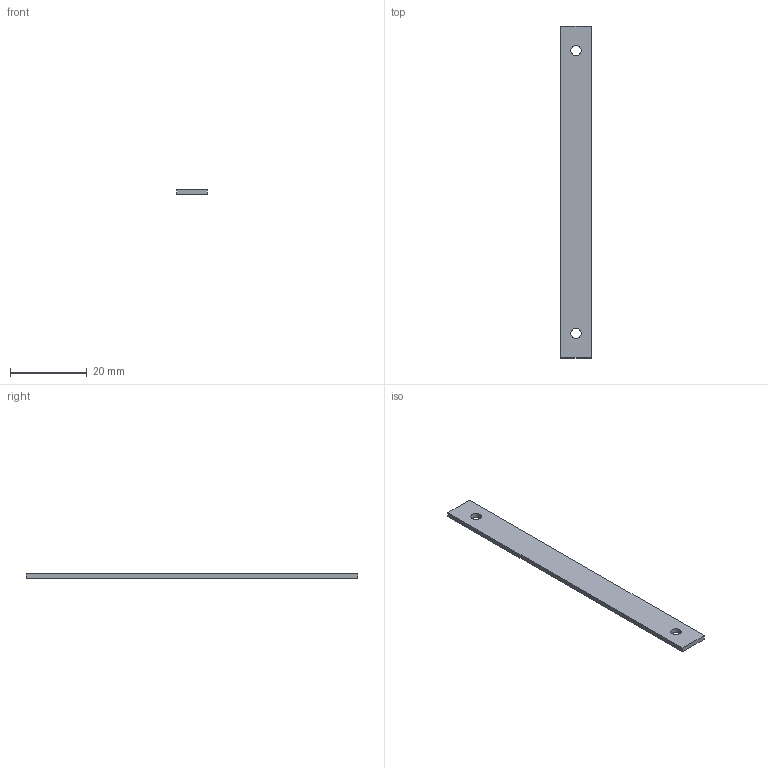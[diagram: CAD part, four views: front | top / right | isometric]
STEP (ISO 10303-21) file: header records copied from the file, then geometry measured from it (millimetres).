
FILE_DESCRIPTION(('Open CASCADE Model'),'2;1');
FILE_NAME('Open CASCADE Shape Model','2026-10-06T09:51:01',('Author'),( 'Open CASCADE'),'Open CASCADE STEP processor 7.9','Open CASCADE 7.9' ,'Unknown');
FILE_SCHEMA(('AUTOMOTIVE_DESIGN { 1 0 10303 214 1 1 1 1 }'));
Length unit declared in the file: millimetre
Products named in the file (1): Open CASCADE STEP translator 7.9 4
Bounding box: 8 x 86.48 x 1.2 mm (x, y, z)
Volume: 816.5 mm3; surface area: 1607.9 mm2
Topology: 1 solids, 1 shells, 8 faces, 18 edges, 12 vertices
Faces by surface type: plane 6, cylinder 2
Full cylindrical faces by diameter (mm): 2.7 x2
Entity records: 478 total; most frequent: DIRECTION 76, CARTESIAN_POINT 75, LINE 46, VECTOR 46, ORIENTED_EDGE 36, PCURVE 36, DEFINITIONAL_REPRESENTATION 36, EDGE_CURVE 18
